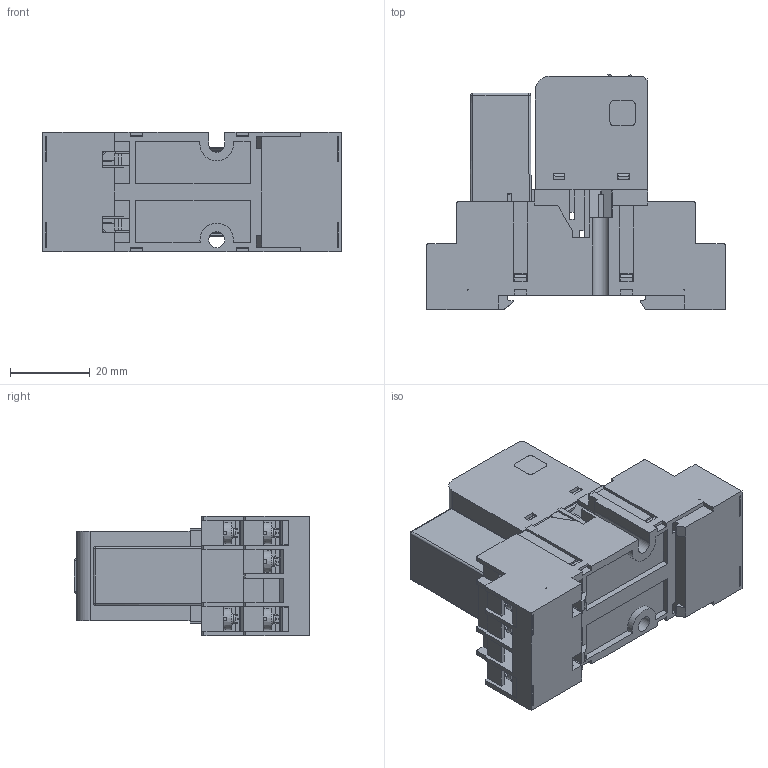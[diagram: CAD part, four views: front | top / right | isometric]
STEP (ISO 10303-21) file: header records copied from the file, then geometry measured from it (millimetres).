
FILE_DESCRIPTION(('STEP AP214'), '1');
FILE_NAME('Ðåëå ìîäóëüíîå ÐÏ30Õ-003-Ì30-ÕÕ (íà ïîêàç)', '', ('UNSPECIFIED'), ('UNSPECIFIED'), 'ASCON STEP Converter 1.6', 'ASCON Math Kernel', '');
FILE_SCHEMA(('AUTOMOTIVE_DESIGN { 1 0 10303 214 3 1 1}'));
Length unit declared in the file: millimetre
Bounding box: 74.9 x 59 x 30 mm (x, y, z)
Volume: 22091 mm3; surface area: 40084.2 mm2
Topology: 15 solids, 15 shells, 3454 faces, 9774 edges, 6262 vertices
Faces by surface type: plane 2555, cylinder 549, torus 154, bspline 118, cone 78
Full cylindrical faces by diameter (mm): 0.6 x2, 2.3 x11, 3 x23, 3.54 x11, 4 x1, 4.5 x14
Entity records: 158452 total; most frequent: CARTESIAN_POINT 43909, ORIENTED_EDGE 19304, DIRECTION 16082, EDGE_CURVE 9652, LINE 6908, VECTOR 6908, VERTEX_POINT 6262, AXIS2_PLACEMENT_3D 4587
